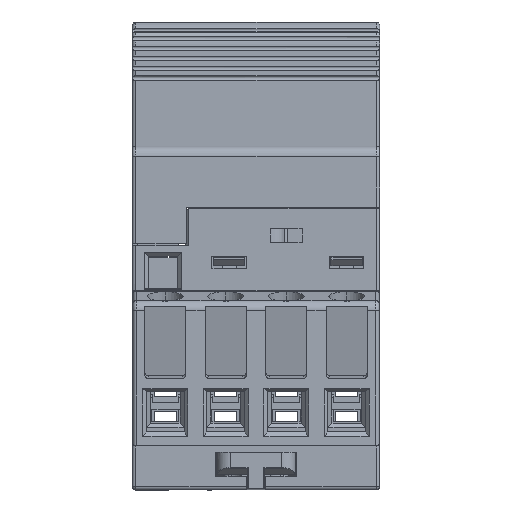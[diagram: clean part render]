
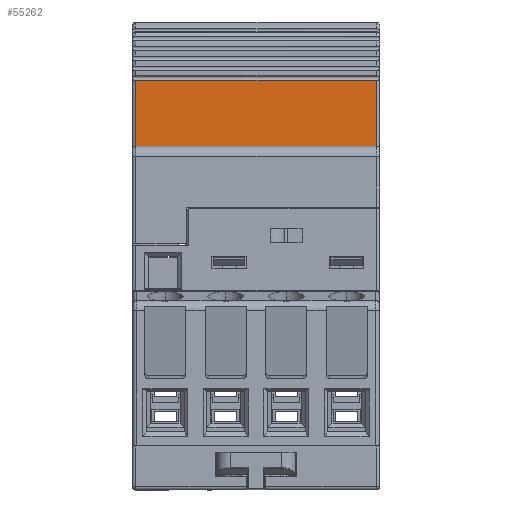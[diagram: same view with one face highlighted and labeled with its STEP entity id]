
A CAD part, front view. The second image highlights one B-rep face of the part: STEP entity #55262.
In plain terms, the highlighted planar face has unit normal (0, -1, 0) as drawn and (1, 0, 0) by its records, which use the part's own axes.
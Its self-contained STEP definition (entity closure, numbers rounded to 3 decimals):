
#2520 = LINE ( 'NONE', #13439, #13896 ) ;
#8391 = DIRECTION ( 'NONE',  ( 0., -1., 0. ) ) ;
#9234 = VERTEX_POINT ( 'NONE', #14549 ) ;
#11486 = DIRECTION ( 'NONE',  ( 0., 0., 1. ) ) ;
#11522 = LINE ( 'NONE', #21747, #91952 ) ;
#12948 = DIRECTION ( 'NONE',  ( 0., 1., 0. ) ) ;
#13439 = CARTESIAN_POINT ( 'NONE',  ( 63., 49.5, -30.5 ) ) ;
#13896 = VECTOR ( 'NONE', #69703, 1000. ) ;
#13925 = ORIENTED_EDGE ( 'NONE', *, *, #75963, .F. ) ;
#14549 = CARTESIAN_POINT ( 'NONE',  ( 63., 48., -34. ) ) ;
#15513 = VERTEX_POINT ( 'NONE', #79931 ) ;
#17860 = EDGE_CURVE ( 'NONE', #132223, #9234, #88707, .T. ) ;
#18791 = DIRECTION ( 'NONE',  ( 1., 0., 0. ) ) ;
#20057 = CARTESIAN_POINT ( 'NONE',  ( 63., 48., -34.5 ) ) ;
#21443 = ORIENTED_EDGE ( 'NONE', *, *, #58465, .T. ) ;
#21747 = CARTESIAN_POINT ( 'NONE',  ( 63., 50., -0.5 ) ) ;
#23384 = CARTESIAN_POINT ( 'NONE',  ( 63., 50., -35.5 ) ) ;
#23909 = VERTEX_POINT ( 'NONE', #35190 ) ;
#25240 = VECTOR ( 'NONE', #111189, 1000. ) ;
#26088 = VERTEX_POINT ( 'NONE', #55199 ) ;
#26216 = EDGE_CURVE ( 'NONE', #138755, #82339, #59534, .T. ) ;
#26611 = DIRECTION ( 'NONE',  ( 0., 0., -1. ) ) ;
#27540 = ORIENTED_EDGE ( 'NONE', *, *, #45099, .F. ) ;
#30201 = ORIENTED_EDGE ( 'NONE', *, *, #48438, .T. ) ;
#30305 = CARTESIAN_POINT ( 'NONE',  ( 63., 50., -30. ) ) ;
#31696 = CARTESIAN_POINT ( 'NONE',  ( 63., 49.5, -34. ) ) ;
#35190 = CARTESIAN_POINT ( 'NONE',  ( 63., 49.5, -30.5 ) ) ;
#36012 = DIRECTION ( 'NONE',  ( 0., -1., 0. ) ) ;
#36211 = AXIS2_PLACEMENT_3D ( 'NONE', #78687, #121022, #11486 ) ;
#36226 = VECTOR ( 'NONE', #66983, 1000. ) ;
#38567 = EDGE_CURVE ( 'NONE', #39247, #23909, #88553, .T. ) ;
#39092 = VECTOR ( 'NONE', #36012, 1000. ) ;
#39247 = VERTEX_POINT ( 'NONE', #30305 ) ;
#39251 = ORIENTED_EDGE ( 'NONE', *, *, #38567, .T. ) ;
#41267 = DIRECTION ( 'NONE',  ( 0., -0.555, 0.832 ) ) ;
#42128 = CARTESIAN_POINT ( 'NONE',  ( 63., 49., -36. ) ) ;
#45038 = CARTESIAN_POINT ( 'NONE',  ( 63., 44.5, -36. ) ) ;
#45099 = EDGE_CURVE ( 'NONE', #134407, #46099, #11522, .T. ) ;
#46099 = VERTEX_POINT ( 'NONE', #71478 ) ;
#46605 = EDGE_LOOP ( 'NONE', ( #91707, #39251, #126630, #75326, #92590, #92153, #129408, #130109, #21443, #90100, #13925, #30201, #27540 ) ) ;
#48438 = EDGE_CURVE ( 'NONE', #15513, #46099, #87126, .T. ) ;
#51423 = EDGE_CURVE ( 'NONE', #23909, #26088, #2520, .T. ) ;
#55199 = CARTESIAN_POINT ( 'NONE',  ( 63., 44.5, -30.5 ) ) ;
#55262 = ADVANCED_FACE ( 'NONE', ( #89765 ), #134310, .T. ) ;
#58465 = EDGE_CURVE ( 'NONE', #120150, #138755, #138822, .T. ) ;
#59534 = LINE ( 'NONE', #71209, #143280 ) ;
#61368 = LINE ( 'NONE', #105884, #79559 ) ;
#62195 = VERTEX_POINT ( 'NONE', #123344 ) ;
#66983 = DIRECTION ( 'NONE',  ( 0., 0., 1. ) ) ;
#69703 = DIRECTION ( 'NONE',  ( 0., -1., 0. ) ) ;
#71209 = CARTESIAN_POINT ( 'NONE',  ( 63., 50., -34.5 ) ) ;
#71478 = CARTESIAN_POINT ( 'NONE',  ( 63., 59.6, -0.5 ) ) ;
#72326 = VECTOR ( 'NONE', #101315, 1000. ) ;
#74152 = CARTESIAN_POINT ( 'NONE',  ( 63., 50., -0.5 ) ) ;
#75326 = ORIENTED_EDGE ( 'NONE', *, *, #119901, .F. ) ;
#75963 = EDGE_CURVE ( 'NONE', #15513, #82339, #78717, .T. ) ;
#78687 = CARTESIAN_POINT ( 'NONE',  ( 63., 49.5, -34.5 ) ) ;
#78717 = LINE ( 'NONE', #123230, #72326 ) ;
#79559 = VECTOR ( 'NONE', #93498, 1000. ) ;
#79931 = CARTESIAN_POINT ( 'NONE',  ( 63., 59.6, -35.5 ) ) ;
#82339 = VERTEX_POINT ( 'NONE', #23384 ) ;
#86789 = CARTESIAN_POINT ( 'NONE',  ( 63., 50., -34.5 ) ) ;
#87078 = DIRECTION ( 'NONE',  ( -1., 0., 0. ) ) ;
#87126 = LINE ( 'NONE', #98080, #25240 ) ;
#87258 = CARTESIAN_POINT ( 'NONE',  ( 63., 49.5, -34. ) ) ;
#87960 = CARTESIAN_POINT ( 'NONE',  ( 63., 49., -36. ) ) ;
#88000 = VECTOR ( 'NONE', #143482, 1000. ) ;
#88553 = CIRCLE ( 'NONE', #142235, 0.5 ) ;
#88707 = LINE ( 'NONE', #20057, #88000 ) ;
#89765 = FACE_OUTER_BOUND ( 'NONE', #46605, .T. ) ;
#90100 = ORIENTED_EDGE ( 'NONE', *, *, #26216, .T. ) ;
#91707 = ORIENTED_EDGE ( 'NONE', *, *, #143658, .T. ) ;
#91952 = VECTOR ( 'NONE', #12948, 1000. ) ;
#92153 = ORIENTED_EDGE ( 'NONE', *, *, #94267, .T. ) ;
#92590 = ORIENTED_EDGE ( 'NONE', *, *, #124235, .F. ) ;
#93498 = DIRECTION ( 'NONE',  ( 0., 0., -1. ) ) ;
#94087 = DIRECTION ( 'NONE',  ( 0., 1., 0. ) ) ;
#94267 = EDGE_CURVE ( 'NONE', #130401, #132223, #139911, .T. ) ;
#96606 = CARTESIAN_POINT ( 'NONE',  ( 63., 48., -34.5 ) ) ;
#98026 = VECTOR ( 'NONE', #41267, 1000. ) ;
#98080 = CARTESIAN_POINT ( 'NONE',  ( 63., 59.6, -35.5 ) ) ;
#101315 = DIRECTION ( 'NONE',  ( 0., -1., 0. ) ) ;
#105884 = CARTESIAN_POINT ( 'NONE',  ( 63., 50., -0.5 ) ) ;
#110398 = EDGE_CURVE ( 'NONE', #120150, #9234, #131768, .T. ) ;
#110447 = CARTESIAN_POINT ( 'NONE',  ( 63., 49., -36. ) ) ;
#111189 = DIRECTION ( 'NONE',  ( 0., 0., 1. ) ) ;
#117387 = CARTESIAN_POINT ( 'NONE',  ( 63., 68., 0. ) ) ;
#118455 = VECTOR ( 'NONE', #8391, 1000. ) ;
#119901 = EDGE_CURVE ( 'NONE', #62195, #26088, #122444, .T. ) ;
#120150 = VERTEX_POINT ( 'NONE', #87258 ) ;
#121022 = DIRECTION ( 'NONE',  ( -1., 0., 0. ) ) ;
#122444 = LINE ( 'NONE', #45038, #36226 ) ;
#123230 = CARTESIAN_POINT ( 'NONE',  ( 63., 59.6, -35.5 ) ) ;
#123344 = CARTESIAN_POINT ( 'NONE',  ( 63., 44.5, -36. ) ) ;
#124235 = EDGE_CURVE ( 'NONE', #130401, #62195, #140603, .T. ) ;
#126630 = ORIENTED_EDGE ( 'NONE', *, *, #51423, .T. ) ;
#129408 = ORIENTED_EDGE ( 'NONE', *, *, #17860, .T. ) ;
#130109 = ORIENTED_EDGE ( 'NONE', *, *, #110398, .F. ) ;
#130401 = VERTEX_POINT ( 'NONE', #42128 ) ;
#131768 = LINE ( 'NONE', #31696, #39092 ) ;
#132223 = VERTEX_POINT ( 'NONE', #96606 ) ;
#132341 = DIRECTION ( 'NONE',  ( 0., 1., 0. ) ) ;
#133690 = AXIS2_PLACEMENT_3D ( 'NONE', #117387, #18791, #94087 ) ;
#134310 = PLANE ( 'NONE',  #133690 ) ;
#134407 = VERTEX_POINT ( 'NONE', #74152 ) ;
#138755 = VERTEX_POINT ( 'NONE', #86789 ) ;
#138822 = CIRCLE ( 'NONE', #36211, 0.5 ) ;
#139911 = LINE ( 'NONE', #110447, #98026 ) ;
#140603 = LINE ( 'NONE', #87960, #118455 ) ;
#141881 = CARTESIAN_POINT ( 'NONE',  ( 63., 49.5, -30. ) ) ;
#142235 = AXIS2_PLACEMENT_3D ( 'NONE', #141881, #87078, #132341 ) ;
#143280 = VECTOR ( 'NONE', #26611, 1000. ) ;
#143482 = DIRECTION ( 'NONE',  ( 0., 0., 1. ) ) ;
#143658 = EDGE_CURVE ( 'NONE', #134407, #39247, #61368, .T. ) ;
